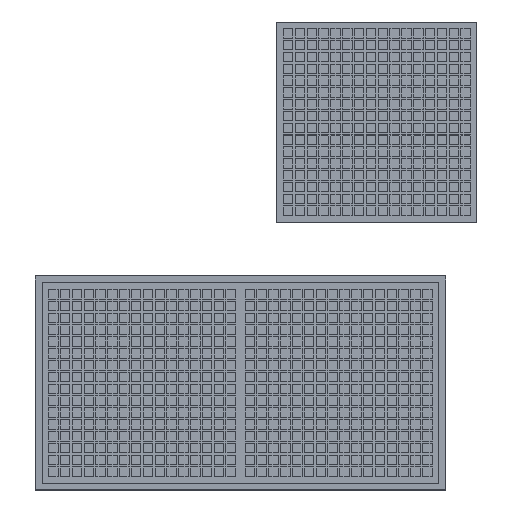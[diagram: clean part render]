
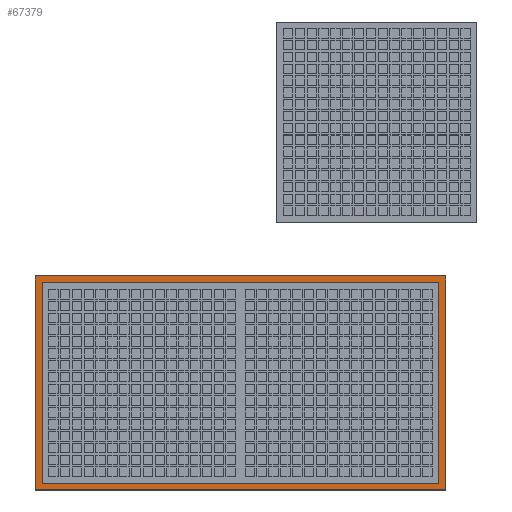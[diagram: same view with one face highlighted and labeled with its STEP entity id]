
A CAD part, top view. The second image highlights one B-rep face of the part: STEP entity #67379.
In plain terms, the highlighted planar face has unit normal (0, 0, 1).
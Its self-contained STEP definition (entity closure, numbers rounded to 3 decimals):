
#273=FACE_BOUND('',#6707,.T.);
#2593=FACE_OUTER_BOUND('',#6706,.T.);
#6706=EDGE_LOOP('',(#51463,#51464,#51465,#51466));
#6707=EDGE_LOOP('',(#51467,#51468,#51469,#51470));
#14407=LINE('',#101323,#23662);
#14411=LINE('',#101330,#23666);
#14413=LINE('',#101335,#23668);
#14416=LINE('',#101339,#23671);
#14418=LINE('',#101345,#23673);
#14421=LINE('',#101350,#23676);
#14424=LINE('',#101356,#23679);
#14427=LINE('',#101361,#23682);
#23662=VECTOR('',#82041,10.);
#23666=VECTOR('',#82047,10.);
#23668=VECTOR('',#82051,10.);
#23671=VECTOR('',#82056,10.);
#23673=VECTOR('',#82060,10.);
#23676=VECTOR('',#82065,10.);
#23679=VECTOR('',#82070,10.);
#23682=VECTOR('',#82075,10.);
#31889=VERTEX_POINT('',#101320);
#31890=VERTEX_POINT('',#101322);
#31892=VERTEX_POINT('',#101328);
#31894=VERTEX_POINT('',#101334);
#31896=VERTEX_POINT('',#101342);
#31897=VERTEX_POINT('',#101344);
#31898=VERTEX_POINT('',#101349);
#31900=VERTEX_POINT('',#101355);
#39088=EDGE_CURVE('',#31890,#31889,#14407,.T.);
#39092=EDGE_CURVE('',#31889,#31892,#14411,.T.);
#39094=EDGE_CURVE('',#31894,#31890,#14413,.T.);
#39097=EDGE_CURVE('',#31892,#31894,#14416,.T.);
#39099=EDGE_CURVE('',#31897,#31896,#14418,.T.);
#39102=EDGE_CURVE('',#31898,#31897,#14421,.T.);
#39105=EDGE_CURVE('',#31900,#31898,#14424,.T.);
#39108=EDGE_CURVE('',#31896,#31900,#14427,.T.);
#51463=ORIENTED_EDGE('',*,*,#39108,.T.);
#51464=ORIENTED_EDGE('',*,*,#39105,.T.);
#51465=ORIENTED_EDGE('',*,*,#39102,.T.);
#51466=ORIENTED_EDGE('',*,*,#39099,.T.);
#51467=ORIENTED_EDGE('',*,*,#39092,.T.);
#51468=ORIENTED_EDGE('',*,*,#39097,.T.);
#51469=ORIENTED_EDGE('',*,*,#39094,.T.);
#51470=ORIENTED_EDGE('',*,*,#39088,.T.);
#63522=PLANE('',#71251);
#67379=ADVANCED_FACE('',(#2593,#273),#63522,.T.);
#71251=AXIS2_PLACEMENT_3D('',#101362,#82076,#82077);
#82041=DIRECTION('',(0.,1.,0.));
#82047=DIRECTION('',(1.,0.,0.));
#82051=DIRECTION('',(-1.,0.,0.));
#82056=DIRECTION('',(0.,-1.,0.));
#82060=DIRECTION('',(0.,-1.,0.));
#82065=DIRECTION('',(-1.,0.,0.));
#82070=DIRECTION('',(0.,1.,0.));
#82075=DIRECTION('',(1.,0.,0.));
#82076=DIRECTION('center_axis',(0.,0.,1.));
#82077=DIRECTION('ref_axis',(1.,0.,0.));
#101320=CARTESIAN_POINT('',(0.,-150.,8.));
#101322=CARTESIAN_POINT('',(0.,-265.,8.));
#101323=CARTESIAN_POINT('',(0.,-265.,8.));
#101328=CARTESIAN_POINT('',(228.,-150.,8.));
#101330=CARTESIAN_POINT('',(114.,-150.,8.));
#101334=CARTESIAN_POINT('',(228.,-265.,8.));
#101335=CARTESIAN_POINT('',(114.,-265.,8.));
#101339=CARTESIAN_POINT('',(228.,-150.,8.));
#101342=CARTESIAN_POINT('',(-4.,-269.,8.));
#101344=CARTESIAN_POINT('',(-4.,-146.,8.));
#101345=CARTESIAN_POINT('',(-4.,-269.,8.));
#101349=CARTESIAN_POINT('',(232.,-146.,8.));
#101350=CARTESIAN_POINT('',(114.,-146.,8.));
#101355=CARTESIAN_POINT('',(232.,-269.,8.));
#101356=CARTESIAN_POINT('',(232.,-146.,8.));
#101361=CARTESIAN_POINT('',(114.,-269.,8.));
#101362=CARTESIAN_POINT('Origin',(114.,-207.5,8.));
